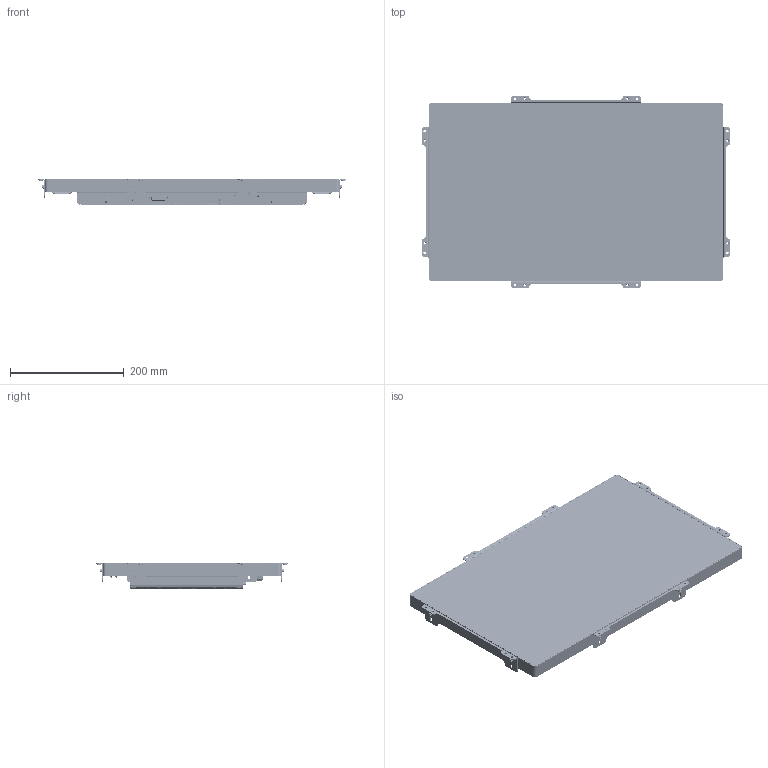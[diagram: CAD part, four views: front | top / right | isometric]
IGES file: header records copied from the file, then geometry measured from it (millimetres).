
Start section: SolidWorks IGES file using analytic representation for surfaces
Global section: file name: C:\Rich Folder\ECO-1002330_076-0718-00_LA2250RTPW\LA2250RTPW_Open-Frame\Final\997-6385-00LF.IGS; native system: SolidWorks 2011; preprocessor: SolidWorks 2011; author: RDavenport; date: 110817.132331; units: inch
Bounding box: 541.44 x 337.31 x 46 mm (x, y, z)
Surface area: 994397.7 mm2 (no closed solid volume)
Topology: 0 solids, 0 shells, 5859 faces, 56379 edges, 56321 vertices
Faces by surface type: bspline 3228, revolution 2631
